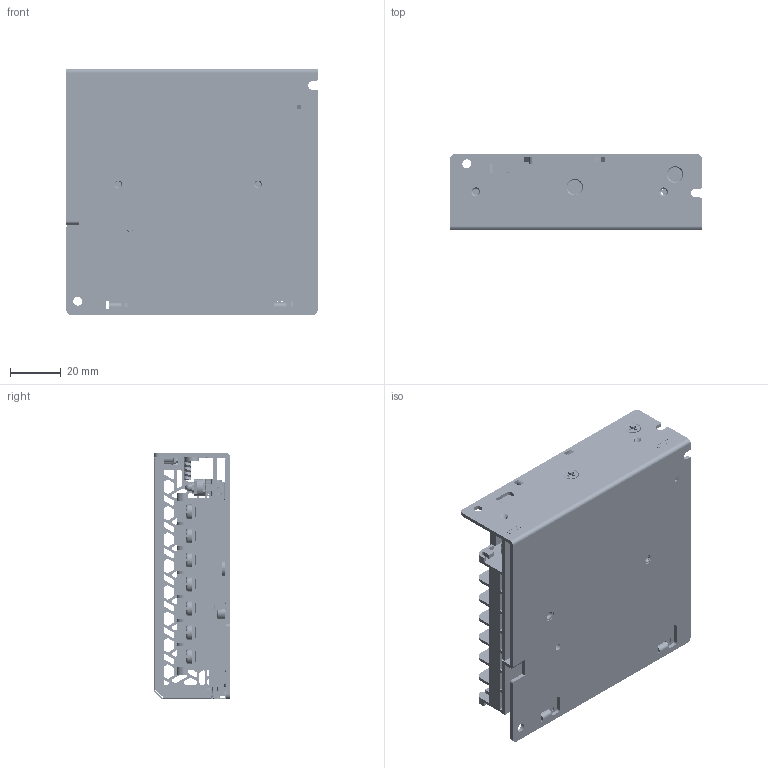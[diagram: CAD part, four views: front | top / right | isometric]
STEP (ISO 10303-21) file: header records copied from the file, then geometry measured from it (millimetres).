
FILE_DESCRIPTION((''),'2;1');
FILE_NAME('150_ASM','2022-08-10T',('pe202'),(''),'PRO/ENGINEER BY PARAMETRIC TECHNOLOGY CORPORATION, 2014000','PRO/ENGINEER BY PARAMETRIC TECHNOLOGY CORPORATION, 2014000','');
FILE_SCHEMA(('CONFIG_CONTROL_DESIGN','GEOMETRIC_VALIDATION_PROPERTIES_MIM'));
Products named in the file (1): 150_ASM
Bounding box: 99 x 30 x 97.04 mm (x, y, z)
Volume: 50704.1 mm3; surface area: 78027.4 mm2
Topology: 2 solids, 45 shells, 5055 faces, 14678 edges, 9683 vertices
Faces by surface type: bspline 3207, revolution 1848
Entity records: 244562 total; most frequent: CARTESIAN_POINT 96131, ORIENTED_EDGE 29322, DIRECTION 19597, EDGE_CURVE 14675, VECTOR 9759, LINE 9759, VERTEX_POINT 9685, EDGE_LOOP 5914
